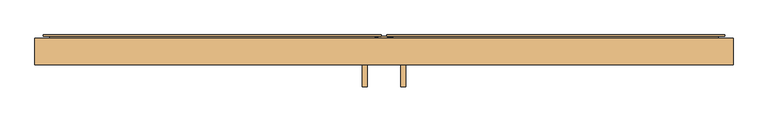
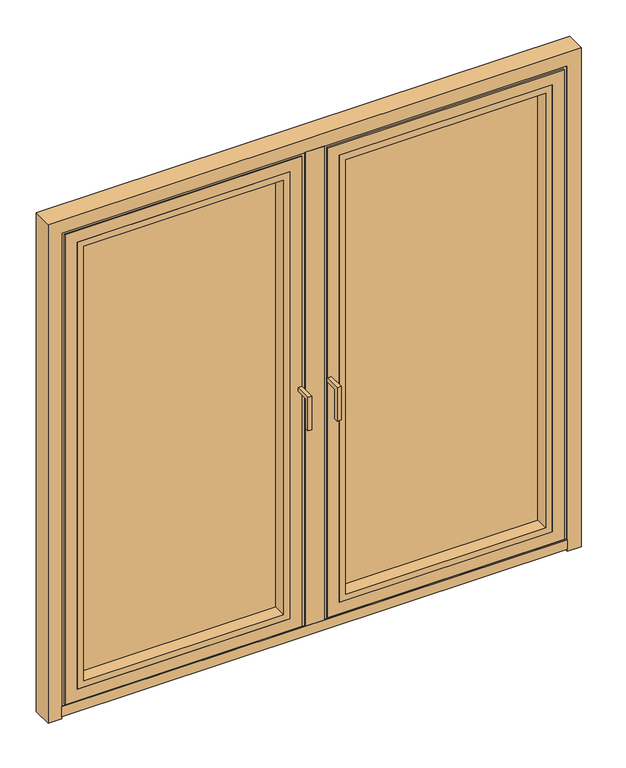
"""IFC4 building model written with IfcOpenShell, lengths in millimetres: door geometry, Reynaers_Masterline 8_Window Door_Outward Opening_Double Vent : Reynaers_Masterline 8_Window Door_Outward Opening_Double Vent."""

from ifc_helpers import new_model, si_unit, frame, origin, place, context, project, spatial, polyline, outline, extrude, faceted_brep, source, transform, mapped, element, save


def door_7251b602(model_context):
    return source(origin(), model_context, "Body", "SolidModel", [
        extrude(outline(polyline([(3.0, 1010.0), (-47.0, 1010.0), (-47.0, 890.0), (-62.0, 890.0), (-62.0, 1025.0), (3.0, 1025.0), (3.0, 1010.0)])), frame((-63.5, 0.0, 0.0), z_axis=(1.0, 0.0, 0.0), x_axis=(0.0, 1.0, 0.0)), (0.0, 0.0, 1.0), 15.0),
        extrude(outline(polyline([(3.0, 1025.0), (3.0, 1010.0), (-47.0, 1010.0), (-47.0, 890.0), (-62.0, 890.0), (-62.0, 1025.0), (3.0, 1025.0)])), frame((48.5, 0.0, 0.0), z_axis=(1.0, 0.0, 0.0), x_axis=(0.0, 1.0, 0.0)), (0.0, 0.0, 1.0), 15.0),
        faceted_brep([(8.5, 90.0, 1995.0), (8.5, 86.0, 1995.0), (995.0, 86.0, 1995.0), (995.0, 90.0, 1995.0), (26.5, 86.0, 1977.0), (26.5, 7.8, 1977.0), (977.0, 7.8, 1977.0), (977.0, 86.0, 1977.0), (48.5, 7.8, 1955.0), (48.5, 3.0, 1955.0), (955.0, 3.0, 1955.0), (955.0, 7.8, 1955.0), (94.5, 3.0, 1909.0), (94.5, 82.0, 1909.0), (909.0, 82.0, 1909.0), (909.0, 3.0, 1909.0), (121.5, 82.0, 1882.0), (121.5, 90.0, 1882.0), (882.0, 90.0, 1882.0), (882.0, 82.0, 1882.0), (995.0, 86.0, 15.0), (995.0, 90.0, 15.0), (977.0, 7.8, 33.0), (977.0, 86.0, 33.0), (955.0, 3.0, 55.0), (955.0, 7.8, 55.0), (909.0, 82.0, 101.0), (909.0, 3.0, 101.0), (882.0, 90.0, 128.0), (882.0, 82.0, 128.0), (8.5, 86.0, 15.0), (8.5, 90.0, 15.0), (26.5, 7.8, 33.0), (26.5, 86.0, 33.0), (48.5, 3.0, 55.0), (48.5, 7.8, 55.0), (94.5, 82.0, 101.0), (94.5, 3.0, 101.0), (121.5, 90.0, 128.0), (121.5, 82.0, 128.0)], [[[0, 1, 2, 3]], [[4, 5, 6, 7]], [[8, 9, 10, 11]], [[12, 13, 14, 15]], [[16, 17, 18, 19]], [[3, 2, 20, 21]], [[7, 6, 22, 23]], [[11, 10, 24, 25]], [[15, 14, 26, 27]], [[19, 18, 28, 29]], [[21, 20, 30, 31]], [[23, 22, 32, 33]], [[25, 24, 34, 35]], [[27, 26, 36, 37]], [[29, 28, 38, 39]], [[31, 30, 1, 0]], [[1, 30, 20, 2], [7, 23, 33, 4]], [[33, 32, 5, 4]], [[5, 32, 22, 6], [11, 25, 35, 8]], [[35, 34, 9, 8]], [[9, 34, 24, 10], [15, 27, 37, 12]], [[37, 36, 13, 12]], [[13, 36, 26, 14], [19, 29, 39, 16]], [[39, 38, 17, 16]], [[3, 21, 31, 0], [17, 38, 28, 18]]]),
        extrude(outline(polyline([(967.0, 7.8), (967.0, 3.0), (-967.0, 3.0), (-967.0, 7.8), (967.0, 7.8)])), frame((0.0, 0.0, 10.0), z_axis=(0.0, 0.0, 1.0), x_axis=(1.0, 0.0, 0.0)), (0.0, 0.0, 1.0), 40.0),
        extrude(outline(polyline([(967.0, 25.1), (967.0, 17.5), (-967.0, 17.5), (-967.0, 25.1), (967.0, 25.1)])), frame((0.0, 0.0, 2.0), z_axis=(0.0, 0.0, 1.0), x_axis=(1.0, 0.0, 0.0)), (0.0, 0.0, 1.0), 26.0),
        extrude(outline(polyline([(967.0, 82.0), (967.0, 58.0), (-967.0, 58.0), (-967.0, 82.0), (967.0, 82.0)])), frame((0.0, 0.0, 8.0), z_axis=(0.0, 0.0, 1.0), x_axis=(1.0, 0.0, 0.0)), (0.0, 0.0, 1.0), 20.0),
        extrude(outline(polyline([(-36.5000018, 3.0), (-36.5000018, 7.8), (-17.0, 7.8), (-17.0, 86.0), (9.5, 86.0), (9.5, 7.8), (36.5, 7.8), (36.5, 3.0), (-36.5000018, 3.0)])), frame((0.0, 0.0, 50.0), z_axis=(0.0, 0.0, 1.0), x_axis=(1.0, 0.0, 0.0)), (0.0, 0.0, 1.0), 1917.0),
        extrude(outline(polyline([(1909.0, 94.5), (101.0, 94.5), (101.0, 909.0), (1909.0, 909.0), (1909.0, 94.5)]), holes=[polyline([(1884.0, 884.0), (126.0, 884.0), (126.0, 119.5), (1884.0, 119.5), (1884.0, 884.0)])]), frame((0.0, 3.0, 0.0), z_axis=(0.0, 1.0, 0.0), x_axis=(0.0, 0.0, 1.0)), (0.0, 0.0, 1.0), 52.0),
        faceted_brep([(967.0, 3.0, 2.0), (967.0, 7.0, 2.0), (994.0, 7.0, 2.0), (994.0, 80.0, 2.0), (1020.0, 80.0, 2.0), (1020.0, 3.0, 2.0), (-967.0, 3.0, 2.0), (-1020.0, 3.0, 2.0), (-1020.0, 80.0, 2.0), (-994.0, 80.0, 2.0), (-994.0, 7.0, 2.0), (-967.0, 7.0, 2.0), (967.0, 3.0, 1967.0), (967.0, 7.0, 1967.0), (-967.0, 7.0, 1967.0), (-994.0, 7.0, 1994.0), (994.0, 7.0, 1994.0), (994.0, 80.0, 1994.0), (-994.0, 80.0, 1994.0), (-1020.0, 80.0, 2020.0), (1020.0, 80.0, 2020.0), (1020.0, 3.0, 2020.0), (-1020.0, 3.0, 2020.0), (-967.0, 3.0, 1967.0)], [[[0, 1, 2, 3, 4, 5]], [[6, 7, 8, 9, 10, 11]], [[1, 0, 12, 13]], [[2, 1, 13, 14, 11, 10, 15, 16]], [[3, 2, 16, 17]], [[4, 3, 17, 18, 9, 8, 19, 20]], [[5, 4, 20, 21]], [[0, 5, 21, 22, 7, 6, 23, 12]], [[13, 12, 23, 14]], [[17, 16, 15, 18]], [[21, 20, 19, 22]], [[14, 23, 6, 11]], [[18, 15, 10, 9]], [[22, 19, 8, 7]]]),
        faceted_brep([(-8.5, 86.0, 1995.0), (-8.5, 90.0, 1995.0), (-995.0010453, 90.0, 1995.0), (-995.0010453, 86.0, 1995.0), (-26.5, 7.8, 1977.0), (-26.5, 86.0, 1977.0), (-977.0010453, 86.0, 1977.0), (-977.0010453, 7.8, 1977.0), (-48.5, 3.0, 1955.0), (-48.5, 7.8, 1955.0), (-955.0010453, 7.8, 1955.0), (-955.0010453, 3.0, 1955.0), (-94.5, 82.0, 1909.0), (-94.5, 3.0, 1909.0), (-909.0010453, 3.0, 1909.0), (-909.0010453, 82.0, 1909.0), (-121.5, 90.0, 1882.0), (-121.5, 82.0, 1882.0), (-882.0010453, 82.0, 1882.0), (-882.0010453, 90.0, 1882.0), (-995.0010453, 90.0, 15.0), (-995.0010453, 86.0, 15.0), (-977.0010453, 86.0, 33.0), (-977.0010453, 7.8, 33.0), (-955.0010453, 7.8, 55.0), (-955.0010453, 3.0, 55.0), (-909.0010453, 3.0, 101.0), (-909.0010453, 82.0, 101.0), (-882.0010453, 82.0, 128.0), (-882.0010453, 90.0, 128.0), (-8.5, 90.0, 15.0), (-8.5, 86.0, 15.0), (-26.5, 86.0, 33.0), (-26.5, 7.8, 33.0), (-48.5, 7.8, 55.0), (-48.5, 3.0, 55.0), (-94.5, 3.0, 101.0), (-94.5, 82.0, 101.0), (-121.5, 82.0, 128.0), (-121.5, 90.0, 128.0)], [[[0, 1, 2, 3]], [[4, 5, 6, 7]], [[8, 9, 10, 11]], [[12, 13, 14, 15]], [[16, 17, 18, 19]], [[3, 2, 20, 21]], [[7, 6, 22, 23]], [[11, 10, 24, 25]], [[15, 14, 26, 27]], [[19, 18, 28, 29]], [[21, 20, 30, 31]], [[23, 22, 32, 33]], [[25, 24, 34, 35]], [[27, 26, 36, 37]], [[29, 28, 38, 39]], [[31, 30, 1, 0]], [[3, 21, 31, 0], [5, 32, 22, 6]], [[33, 32, 5, 4]], [[7, 23, 33, 4], [9, 34, 24, 10]], [[35, 34, 9, 8]], [[11, 25, 35, 8], [13, 36, 26, 14]], [[37, 36, 13, 12]], [[15, 27, 37, 12], [17, 38, 28, 18]], [[39, 38, 17, 16]], [[1, 30, 20, 2], [19, 29, 39, 16]]]),
        extrude(outline(polyline([(1909.0, -909.0010453), (101.0, -909.0010453), (101.0, -94.5), (1909.0, -94.5), (1909.0, -909.0010453)]), holes=[polyline([(1884.0, -119.5), (126.0, -119.5), (126.0, -884.0010453), (1884.0, -884.0010453), (1884.0, -119.5)])]), frame((0.0, 3.0, 0.0), z_axis=(0.0, 1.0, 0.0), x_axis=(0.0, 0.0, 1.0)), (0.0, 0.0, 1.0), 52.0),
        extrude(outline(polyline([(901.0, 55.0), (102.5, 55.0), (102.5, 82.0), (901.0, 82.0), (901.0, 55.0)])), frame((0.0, 0.0, 109.0), z_axis=(0.0, 0.0, 1.0), x_axis=(1.0, 0.0, 0.0)), (0.0, 0.0, 1.0), 1792.0),
        extrude(outline(polyline([(-102.5, 55.0), (-901.0010453, 55.0), (-901.0010453, 82.0), (-102.5, 82.0), (-102.5, 55.0)])), frame((0.0, 0.0, 109.0), z_axis=(0.0, 0.0, 1.0), x_axis=(1.0, 0.0, 0.0)), (0.0, 0.0, 1.0), 1792.0),
    ])


if __name__ == "__main__":
    model = new_model("IFC4")
    model_context = context("Model", 3, world=origin())
    ifc_project = project(units=[si_unit("LENGTHUNIT", "METRE", prefix="MILLI")], contexts=[model_context])
    site = spatial("IfcSite", under=ifc_project)
    building = spatial("IfcBuilding", under=site)
    placement = place(None, origin())
    door_shape = door_7251b602(model_context)
    element("IfcDoor", 1, ObjectType="Reynaers_Masterline 8_Window Door_Outward Opening_Double Vent : Reynaers_Masterline 8_Window Door_Outward Opening_Double Vent", at=placement, inside=building, context=model_context, shape_type="MappedRepresentation", body=[
        mapped(door_shape, transform((0.0, 0.0, 0.0), x_axis=(1.0, 0.0, 0.0), y_axis=(0.0, 1.0, 0.0), z_axis=(0.0, 0.0, 1.0))),
    ])
    save(model, "model.ifc")
